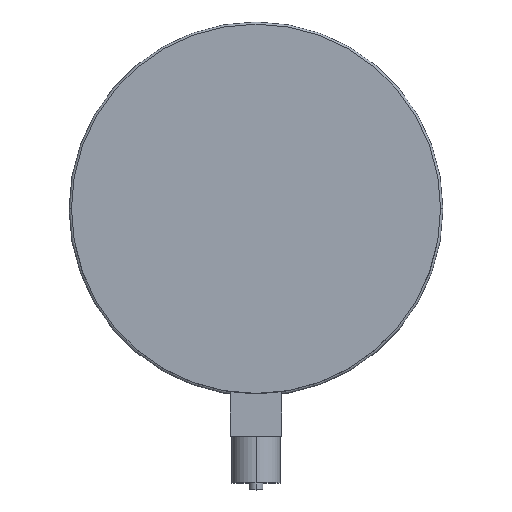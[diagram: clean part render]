
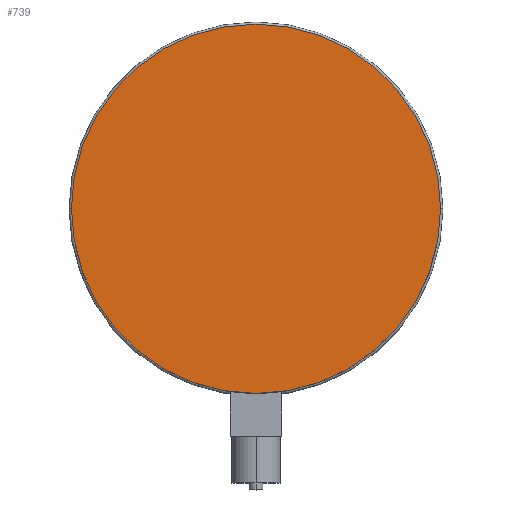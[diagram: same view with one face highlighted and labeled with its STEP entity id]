
A CAD part, top view. The second image highlights one B-rep face of the part: STEP entity #739.
In plain terms, the highlighted planar face has unit normal (0, 0, 1).
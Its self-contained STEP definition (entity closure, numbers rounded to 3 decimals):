
#46 = DIRECTION ( 'NONE',  ( 1., 0., 0. ) ) ;
#104 = DIRECTION ( 'NONE',  ( 0., 0., 1. ) ) ;
#128 = AXIS2_PLACEMENT_3D ( 'NONE', #287, #790, #46 ) ;
#184 = DIRECTION ( 'NONE',  ( 1., 0., 0. ) ) ;
#195 = CIRCLE ( 'NONE', #307, 79.5 ) ;
#217 = ORIENTED_EDGE ( 'NONE', *, *, #478, .T. ) ;
#287 = CARTESIAN_POINT ( 'NONE',  ( 0., 0., 49. ) ) ;
#307 = AXIS2_PLACEMENT_3D ( 'NONE', #550, #104, #402 ) ;
#327 = CIRCLE ( 'NONE', #780, 79.5 ) ;
#378 = CARTESIAN_POINT ( 'NONE',  ( 0., 0., 49. ) ) ;
#402 = DIRECTION ( 'NONE',  ( 1., 0., 0. ) ) ;
#430 = CARTESIAN_POINT ( 'NONE',  ( 79.5, 0., 49. ) ) ;
#478 = EDGE_CURVE ( 'NONE', #546, #668, #327, .T. ) ;
#482 = EDGE_LOOP ( 'NONE', ( #600, #217 ) ) ;
#491 = PLANE ( 'NONE',  #128 ) ;
#546 = VERTEX_POINT ( 'NONE', #430 ) ;
#550 = CARTESIAN_POINT ( 'NONE',  ( 0., 0., 49. ) ) ;
#600 = ORIENTED_EDGE ( 'NONE', *, *, #660, .T. ) ;
#654 = CARTESIAN_POINT ( 'NONE',  ( -79.5, 0., 49. ) ) ;
#660 = EDGE_CURVE ( 'NONE', #668, #546, #195, .T. ) ;
#663 = FACE_OUTER_BOUND ( 'NONE', #482, .T. ) ;
#668 = VERTEX_POINT ( 'NONE', #654 ) ;
#739 = ADVANCED_FACE ( 'NONE', ( #663 ), #491, .T. ) ;
#780 = AXIS2_PLACEMENT_3D ( 'NONE', #378, #816, #184 ) ;
#790 = DIRECTION ( 'NONE',  ( 0., 0., 1. ) ) ;
#816 = DIRECTION ( 'NONE',  ( 0., 0., 1. ) ) ;
